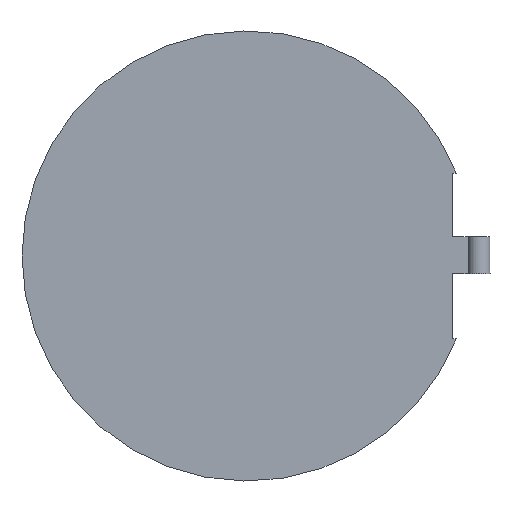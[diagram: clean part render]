
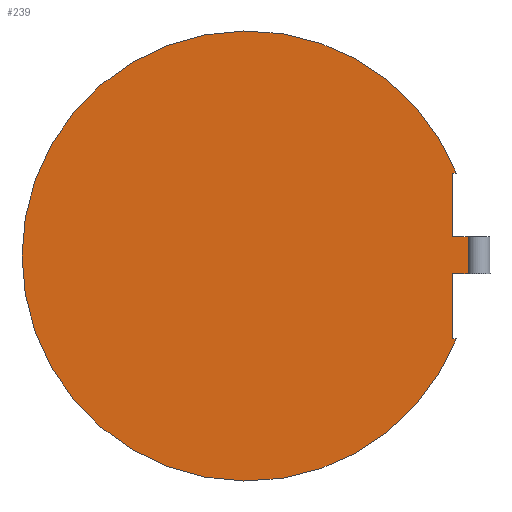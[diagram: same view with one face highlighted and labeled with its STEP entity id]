
A CAD part, front view. The second image highlights one B-rep face of the part: STEP entity #239.
In plain terms, the highlighted planar face has unit normal (0, -1, 0).
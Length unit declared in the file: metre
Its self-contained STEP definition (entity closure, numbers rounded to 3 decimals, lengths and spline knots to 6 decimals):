
#21=CIRCLE('',#264,0.03683);
#64=ORIENTED_EDGE('',*,*,#114,.T.);
#65=ORIENTED_EDGE('',*,*,#115,.T.);
#66=ORIENTED_EDGE('',*,*,#102,.F.);
#67=ORIENTED_EDGE('',*,*,#116,.F.);
#68=ORIENTED_EDGE('',*,*,#117,.T.);
#69=ORIENTED_EDGE('',*,*,#108,.F.);
#70=ORIENTED_EDGE('',*,*,#113,.T.);
#71=ORIENTED_EDGE('',*,*,#104,.T.);
#102=EDGE_CURVE('',#133,#132,#21,.T.);
#104=EDGE_CURVE('',#135,#134,#152,.T.);
#108=EDGE_CURVE('',#137,#138,#155,.T.);
#113=EDGE_CURVE('',#137,#135,#159,.F.);
#114=EDGE_CURVE('',#134,#140,#160,.T.);
#115=EDGE_CURVE('',#140,#132,#161,.T.);
#116=EDGE_CURVE('',#141,#133,#162,.T.);
#117=EDGE_CURVE('',#141,#138,#163,.T.);
#132=VERTEX_POINT('',#375);
#133=VERTEX_POINT('',#377);
#134=VERTEX_POINT('',#381);
#135=VERTEX_POINT('',#383);
#137=VERTEX_POINT('',#390);
#138=VERTEX_POINT('',#391);
#140=VERTEX_POINT('',#403);
#141=VERTEX_POINT('',#406);
#152=LINE('',#382,#176);
#155=LINE('',#389,#179);
#159=LINE('',#400,#183);
#160=LINE('',#402,#184);
#161=LINE('',#404,#185);
#162=LINE('',#405,#186);
#163=LINE('',#407,#187);
#176=VECTOR('',#307,1.);
#179=VECTOR('',#314,1.);
#183=VECTOR('',#326,1.);
#184=VECTOR('',#329,1.);
#185=VECTOR('',#330,1.);
#186=VECTOR('',#331,1.);
#187=VECTOR('',#332,1.);
#201=EDGE_LOOP('',(#64,#65,#66,#67,#68,#69,#70,#71));
#217=FACE_BOUND('',#201,.T.);
#226=PLANE('',#272);
#239=ADVANCED_FACE('',(#217),#226,.F.);
#264=AXIS2_PLACEMENT_3D('',#378,#302,#303);
#272=AXIS2_PLACEMENT_3D('',#401,#327,#328);
#302=DIRECTION('',(0.,1.,0.));
#303=DIRECTION('',(1.,0.,0.));
#307=DIRECTION('',(-1.,0.,0.));
#314=DIRECTION('',(-1.,0.,0.));
#326=DIRECTION('',(0.,0.,-1.));
#327=DIRECTION('',(0.,1.,0.));
#328=DIRECTION('',(1.,0.,0.));
#329=DIRECTION('',(0.,0.,1.));
#330=DIRECTION('',(1.,0.,0.));
#331=DIRECTION('',(1.,0.,0.));
#332=DIRECTION('',(0.,0.,1.));
#375=CARTESIAN_POINT('',(0.04648,0.010414,0.016491));
#377=CARTESIAN_POINT('',(0.04648,0.010414,-0.010649));
#378=CARTESIAN_POINT('',(0.012241,0.010414,0.002921));
#381=CARTESIAN_POINT('',(0.045845,0.010414,0.006096));
#382=CARTESIAN_POINT('',(0.047707,0.010414,0.006096));
#383=CARTESIAN_POINT('',(0.048421,0.010414,0.006096));
#389=CARTESIAN_POINT('',(0.05017,0.010414,0.));
#390=CARTESIAN_POINT('',(0.048421,0.010414,0.));
#391=CARTESIAN_POINT('',(0.045845,0.010414,0.));
#400=CARTESIAN_POINT('',(0.048421,0.010414,0.006096));
#401=CARTESIAN_POINT('',(0.012876,0.010414,0.002921));
#402=CARTESIAN_POINT('',(0.045845,0.010414,0.011293));
#403=CARTESIAN_POINT('',(0.045845,0.010414,0.016491));
#404=CARTESIAN_POINT('',(0.045845,0.010414,0.016491));
#405=CARTESIAN_POINT('',(0.045845,0.010414,-0.010649));
#406=CARTESIAN_POINT('',(0.045845,0.010414,-0.010649));
#407=CARTESIAN_POINT('',(0.045845,0.010414,-0.005324));
